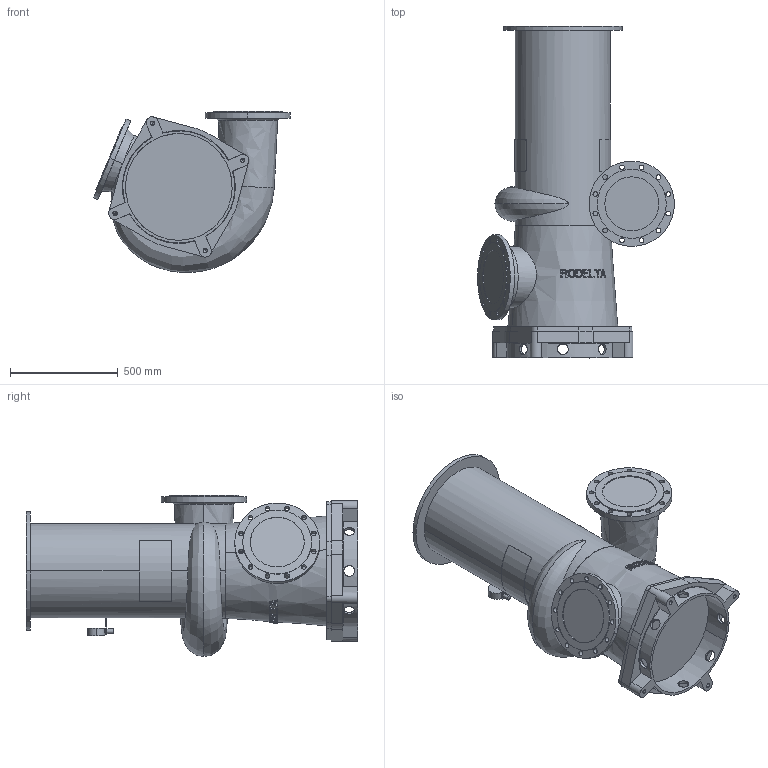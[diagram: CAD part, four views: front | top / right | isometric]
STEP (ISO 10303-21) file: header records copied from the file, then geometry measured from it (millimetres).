
FILE_DESCRIPTION((''),'2;1');
FILE_NAME('8510_ASM','2024-07-30T',('Lyritlocal'),(''),'PRO/ENGINEER BY PARAMETRIC TECHNOLOGY CORPORATION, 2016360','PRO/ENGINEER BY PARAMETRIC TECHNOLOGY CORPORATION, 2016360','');
FILE_SCHEMA(('CONFIG_CONTROL_DESIGN'));
Length unit declared in the file: millimetre
Products named in the file (3): 8510; 8510_VOET; 8510_ASM
Assembly tree (2 placements, depth 2):
  8510_ASM
    8510
    8510_VOET
Bounding box: 912.74 x 1539 x 747.09 mm (x, y, z)
Volume: 297748321.2 mm3; surface area: 4725053.7 mm2
Topology: 2 solids, 6 shells, 542 faces, 1460 edges, 967 vertices
Faces by surface type: plane 343, cylinder 155, cone 34, bspline 6, torus 4
Entity records: 19328 total; most frequent: CARTESIAN_POINT 6085, ORIENTED_EDGE 2888, DIRECTION 2477, EDGE_CURVE 1452, VERTEX_POINT 967, AXIS2_PLACEMENT_3D 961, EDGE_LOOP 659, VECTOR 555
